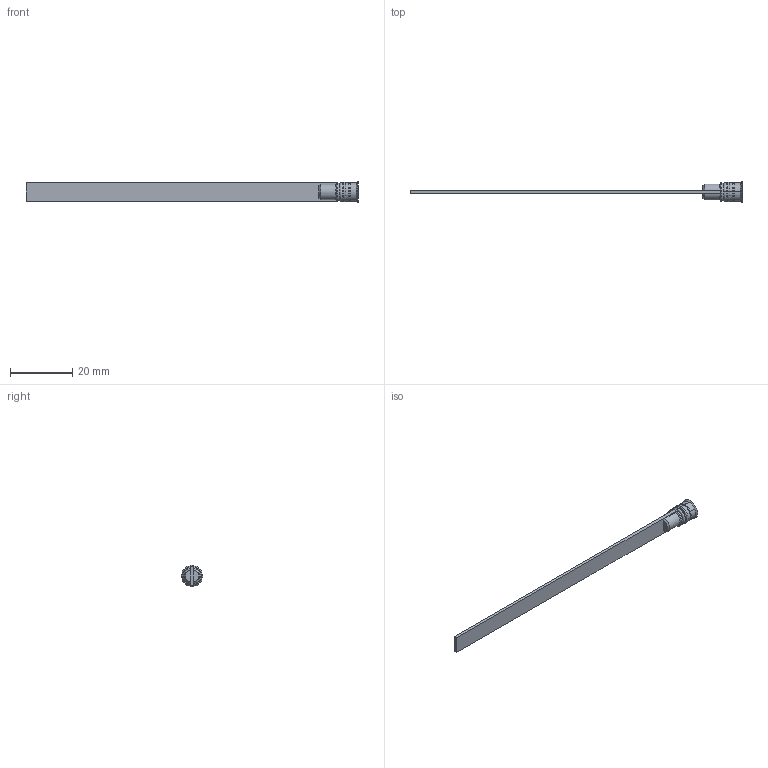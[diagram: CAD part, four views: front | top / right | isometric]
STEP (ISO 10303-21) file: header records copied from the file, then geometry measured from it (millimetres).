
FILE_DESCRIPTION (( 'STEP AP203' ), '1' );
FILE_NAME ('RL6Fx100.STEP', '2011-02-08T10:32:51', ( ' ' ), ( ' ' ), 'SwSTEP 2.0', 'SolidWorks 2011', '' );
FILE_SCHEMA (( 'CONFIG_CONTROL_DESIGN' ));
Length unit declared in the file: millimetre
Products named in the file (1): RL6Fx100
Bounding box: 106.9 x 6.8 x 6.8 mm (x, y, z)
Volume: 824.2 mm3; surface area: 1705 mm2
Topology: 1 solids, 1 shells, 72 faces, 174 edges, 110 vertices
Faces by surface type: plane 32, cylinder 20, cone 12, torus 8
Entity records: 2191 total; most frequent: CARTESIAN_POINT 413, DIRECTION 364, ORIENTED_EDGE 348, EDGE_CURVE 174, AXIS2_PLACEMENT_3D 133, VERTEX_POINT 110, VECTOR 98, LINE 98
